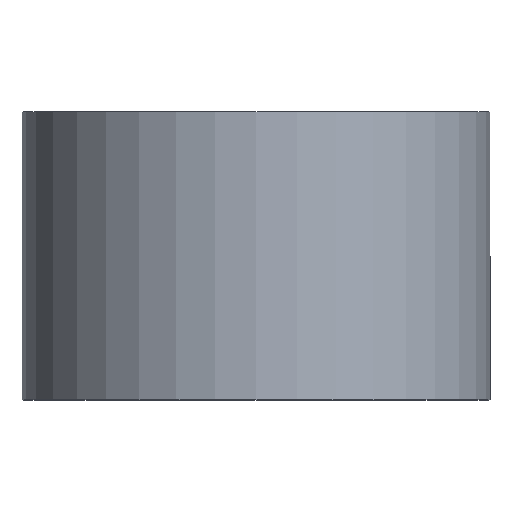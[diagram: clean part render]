
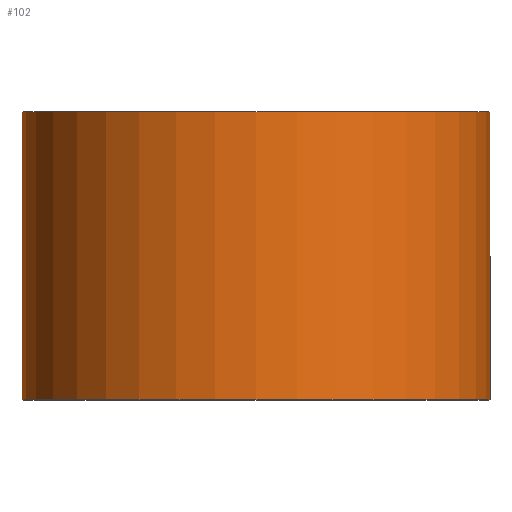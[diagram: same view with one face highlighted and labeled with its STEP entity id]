
A CAD part, top view. The second image highlights one B-rep face of the part: STEP entity #102.
In plain terms, the highlighted cylindrical face has radius 13 mm (diameter 26 mm), a partial arc.
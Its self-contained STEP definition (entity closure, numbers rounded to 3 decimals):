
#1 = EDGE_CURVE ( 'NONE', #12, #275, #106, .T. ) ;
#2 = CARTESIAN_POINT ( 'NONE',  ( -13., 16., 0. ) ) ;
#3 = CARTESIAN_POINT ( 'NONE',  ( 13., 0., 0. ) ) ;
#7 = CARTESIAN_POINT ( 'NONE',  ( -13., 0., 0. ) ) ;
#12 = VERTEX_POINT ( 'NONE', #2 ) ;
#13 = AXIS2_PLACEMENT_3D ( 'NONE', #52, #162, #212 ) ;
#21 = CARTESIAN_POINT ( 'NONE',  ( 13., 0., 0. ) ) ;
#23 = DIRECTION ( 'NONE',  ( 0., 1., 0. ) ) ;
#30 = DIRECTION ( 'NONE',  ( -1., 0., 0. ) ) ;
#38 = DIRECTION ( 'NONE',  ( -1., 0., 0. ) ) ;
#39 = VERTEX_POINT ( 'NONE', #3 ) ;
#43 = VECTOR ( 'NONE', #83, 1000. ) ;
#52 = CARTESIAN_POINT ( 'NONE',  ( 0., 16., 0. ) ) ;
#53 = CARTESIAN_POINT ( 'NONE',  ( -13., 0., 0. ) ) ;
#56 = CARTESIAN_POINT ( 'NONE',  ( 13., 16., 0. ) ) ;
#60 = EDGE_CURVE ( 'NONE', #39, #275, #113, .T. ) ;
#67 = VERTEX_POINT ( 'NONE', #53 ) ;
#77 = VECTOR ( 'NONE', #168, 1000. ) ;
#82 = ORIENTED_EDGE ( 'NONE', *, *, #1, .F. ) ;
#83 = DIRECTION ( 'NONE',  ( 0., 1., 0. ) ) ;
#90 = AXIS2_PLACEMENT_3D ( 'NONE', #149, #284, #38 ) ;
#102 = ADVANCED_FACE ( 'NONE', ( #141 ), #204, .T. ) ;
#105 = AXIS2_PLACEMENT_3D ( 'NONE', #126, #23, #30 ) ;
#106 = CIRCLE ( 'NONE', #13, 13. ) ;
#113 = LINE ( 'NONE', #21, #43 ) ;
#115 = EDGE_CURVE ( 'NONE', #67, #39, #196, .T. ) ;
#126 = CARTESIAN_POINT ( 'NONE',  ( 0., 0., 0. ) ) ;
#132 = LINE ( 'NONE', #7, #77 ) ;
#141 = FACE_OUTER_BOUND ( 'NONE', #161, .T. ) ;
#149 = CARTESIAN_POINT ( 'NONE',  ( 0., 0., 0. ) ) ;
#161 = EDGE_LOOP ( 'NONE', ( #200, #208, #82, #211 ) ) ;
#162 = DIRECTION ( 'NONE',  ( 0., 1., 0. ) ) ;
#168 = DIRECTION ( 'NONE',  ( 0., 1., 0. ) ) ;
#175 = EDGE_CURVE ( 'NONE', #67, #12, #132, .T. ) ;
#196 = CIRCLE ( 'NONE', #90, 13. ) ;
#200 = ORIENTED_EDGE ( 'NONE', *, *, #115, .T. ) ;
#204 = CYLINDRICAL_SURFACE ( 'NONE', #105, 13. ) ;
#208 = ORIENTED_EDGE ( 'NONE', *, *, #60, .T. ) ;
#211 = ORIENTED_EDGE ( 'NONE', *, *, #175, .F. ) ;
#212 = DIRECTION ( 'NONE',  ( -1., 0., 0. ) ) ;
#275 = VERTEX_POINT ( 'NONE', #56 ) ;
#284 = DIRECTION ( 'NONE',  ( 0., 1., 0. ) ) ;
